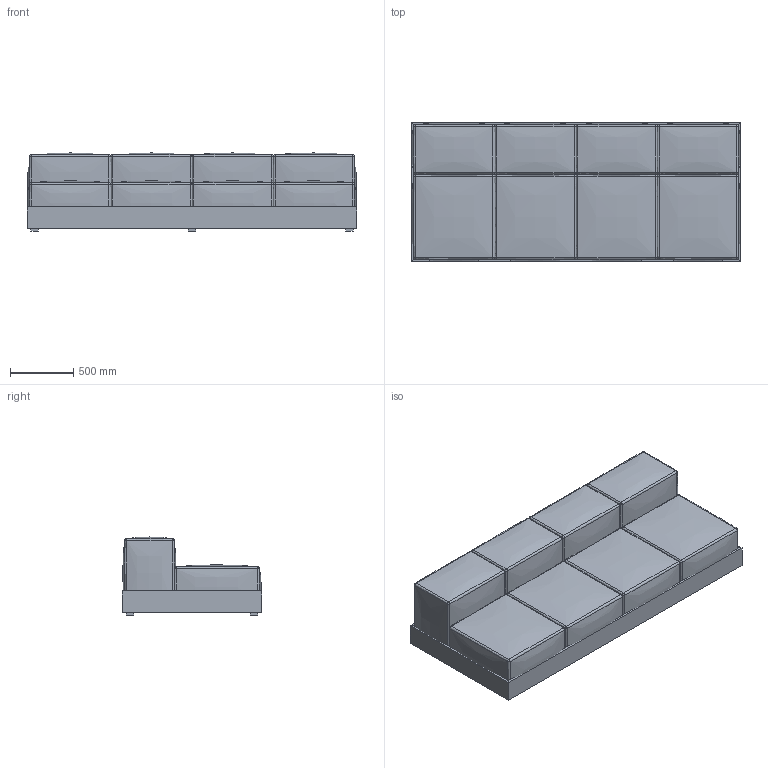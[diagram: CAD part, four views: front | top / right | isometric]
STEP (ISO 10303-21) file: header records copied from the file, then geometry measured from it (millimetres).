
FILE_DESCRIPTION(/* description */ (''),/* implementation_level */ '2;1');
FILE_NAME(/* name */ 'Polp1 260 nob4.step',/* time_stamp */ '2024-01-07T10:24:31+01:00',/* author */ (''),/* organization */ (''),/* preprocessor_version */ 'ST-DEVELOPER v20',/* originating_system */ 'Autodesk Translation Framework v12.14.0.127',/* authorisation */ '');
FILE_SCHEMA (('AUTOMOTIVE_DESIGN { 1 0 10303 214 3 1 1 }'));
Length unit declared in the file: millimetre
Products named in the file (9): Polp1 260 nob4; Component1; Component2; Component3; Component11; Component5; Component6; Component7; Component12
Assembly tree (8 placements, depth 2):
  Polp1 260 nob4
    Component1
    Component2
    Component3
    Component11
    Component5
    Component6
    Component7
    Component12
Bounding box: 2600 x 1100 x 615 mm (x, y, z)
Volume: 1222008294.2 mm3; surface area: 21776814.3 mm2
Topology: 24 solids, 24 shells, 304 faces, 576 edges, 320 vertices
Faces by surface type: plane 120, bspline 98, sphere 64, cylinder 22
Entity records: 18331 total; most frequent: CARTESIAN_POINT 12479, ORIENTED_EDGE 1152, DIRECTION 1066, EDGE_CURVE 576, AXIS2_PLACEMENT_3D 415, VERTEX_POINT 320, FACE_OUTER_BOUND 304, EDGE_LOOP 304
